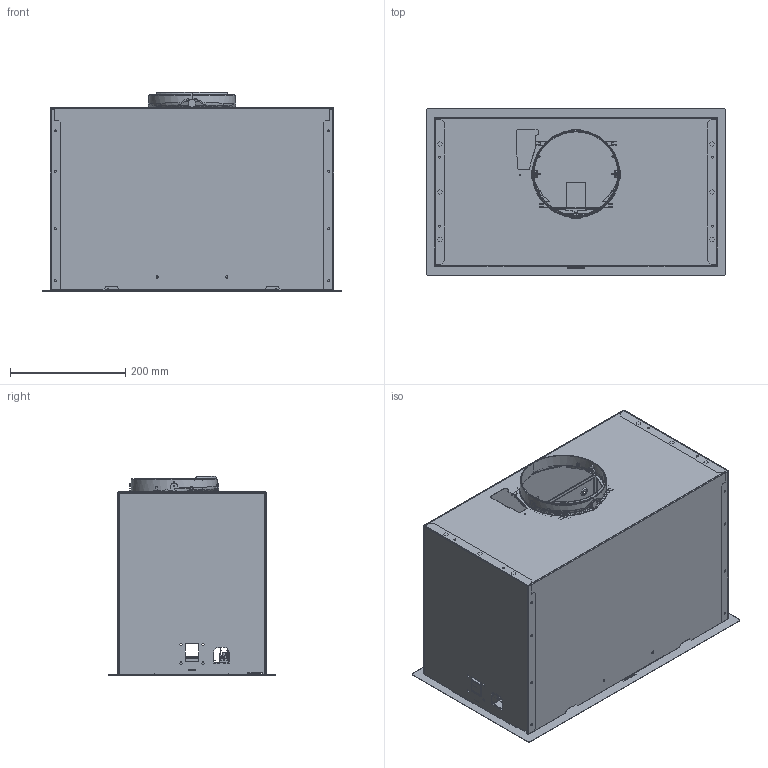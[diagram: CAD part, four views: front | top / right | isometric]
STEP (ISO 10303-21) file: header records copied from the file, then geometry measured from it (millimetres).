
FILE_DESCRIPTION(/* description */ (''),/* implementation_level */ '2;1');
FILE_NAME(/* name */ '3D001_Hoods_Box-Flush-Premium_FBFP-A52',/* time_stamp */ '2024-02-09T11:34:11+01:00',/* author */ (''),/* organization */ (''),/* preprocessor_version */ 'ST-DEVELOPER v19.2',/* originating_system */ 'Rhino 8.3',/* authorisation */ '');
FILE_SCHEMA (('CONFIG_CONTROL_DESIGN'));
Products named in the file (20): Document; 305056_133_30_38; 305056_701_ASM_39_ASM14; G02_202_873; FIN_046_141; 305056_062_142; 305056_031_395; 305056_032_5812; CME_732_311; K36_700_ASM_134_ASM; K36_005_117; K36_015_24; K36_017_33; K36_703_ASM_52_ASM; K36_002_119; K36_003_50; K36_007_32; 305056_099_276; 305056_137_30_77; 305056_136_30_59
Bounding box: 520 x 290 x 345.94 mm (x, y, z)
Volume: 744992.4 mm3; surface area: 1781680.7 mm2
Topology: 25 solids, 36 shells, 8105 faces, 20380 edges, 12243 vertices
Faces by surface type: plane 3315, cylinder 2950, bspline 1840
Entity records: 352711 total; most frequent: CARTESIAN_POINT 207201, ORIENTED_EDGE 36455, EDGE_CURVE 18385, DIRECTION 15279, B_SPLINE_CURVE_WITH_KNOTS 13604, VERTEX_POINT 11187, AXIS2_PLACEMENT_3D 10464, EDGE_LOOP 7847
